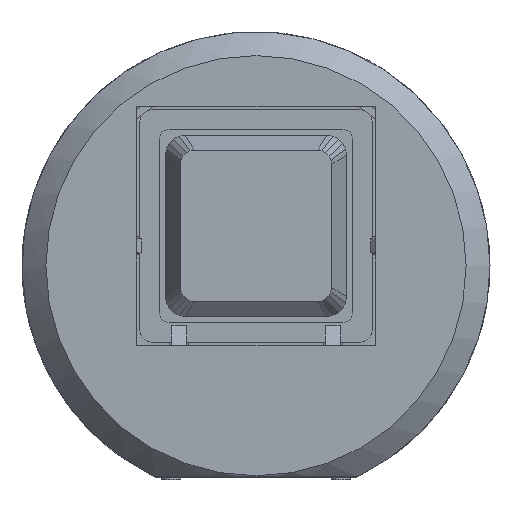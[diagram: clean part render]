
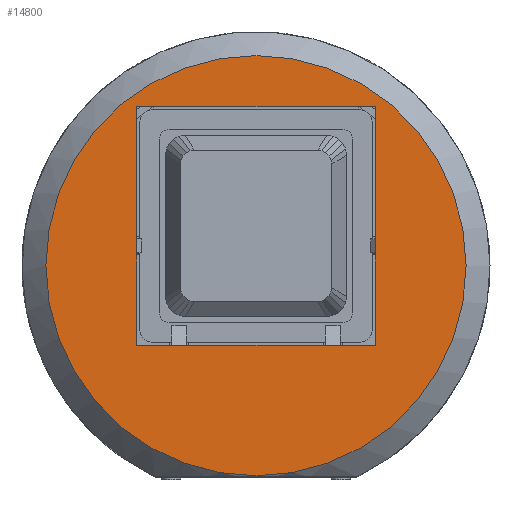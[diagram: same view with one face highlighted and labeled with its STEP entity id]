
A CAD part, top view. The second image highlights one B-rep face of the part: STEP entity #14800.
In plain terms, the highlighted planar face has unit normal (0, 0, 1).
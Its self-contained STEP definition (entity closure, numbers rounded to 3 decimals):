
#125 = CONICAL_SURFACE('',#126,23.5,0.785);
#126 = AXIS2_PLACEMENT_3D('',#127,#128,#129);
#127 = CARTESIAN_POINT('',(0.,0.,21.));
#128 = DIRECTION('',(-0.,-0.,-1.));
#129 = DIRECTION('',(1.,0.,0.));
#9402 = PLANE('',#9403);
#9403 = AXIS2_PLACEMENT_3D('',#9404,#9405,#9406);
#9404 = CARTESIAN_POINT('',(-12.,-8.,14.9));
#9405 = DIRECTION('',(1.,0.,0.));
#9406 = DIRECTION('',(0.,0.,1.));
#9779 = VERTEX_POINT('',#9780);
#9780 = CARTESIAN_POINT('',(-12.,-8.,23.4));
#9794 = PLANE('',#9795);
#9795 = AXIS2_PLACEMENT_3D('',#9796,#9797,#9798);
#9796 = CARTESIAN_POINT('',(-12.,-8.,14.9));
#9797 = DIRECTION('',(0.,1.,0.));
#9798 = DIRECTION('',(0.,0.,1.));
#9927 = VERTEX_POINT('',#9928);
#9928 = CARTESIAN_POINT('',(-12.,16.,23.4));
#9942 = PLANE('',#9943);
#9943 = AXIS2_PLACEMENT_3D('',#9944,#9945,#9946);
#9944 = CARTESIAN_POINT('',(-12.,16.,14.9));
#9945 = DIRECTION('',(0.,1.,0.));
#9946 = DIRECTION('',(0.,0.,1.));
#9954 = EDGE_CURVE('',#9779,#9927,#9955,.T.);
#9955 = SURFACE_CURVE('',#9956,(#9960,#9967),.PCURVE_S1.);
#9956 = LINE('',#9957,#9958);
#9957 = CARTESIAN_POINT('',(-12.,-4.,23.4));
#9958 = VECTOR('',#9959,1.);
#9959 = DIRECTION('',(0.,1.,0.));
#9960 = PCURVE('',#9402,#9961);
#9961 = DEFINITIONAL_REPRESENTATION('',(#9962),#9966);
#9962 = LINE('',#9963,#9964);
#9963 = CARTESIAN_POINT('',(8.5,-4.));
#9964 = VECTOR('',#9965,1.);
#9965 = DIRECTION('',(0.,-1.));
#9966 = ( GEOMETRIC_REPRESENTATION_CONTEXT(2) 
PARAMETRIC_REPRESENTATION_CONTEXT() REPRESENTATION_CONTEXT('2D SPACE',''
  ) );
#9967 = PCURVE('',#9968,#9973);
#9968 = PLANE('',#9969);
#9969 = AXIS2_PLACEMENT_3D('',#9970,#9971,#9972);
#9970 = CARTESIAN_POINT('',(0.,0.,23.4)
  );
#9971 = DIRECTION('',(0.,0.,1.));
#9972 = DIRECTION('',(1.,0.,-0.));
#9973 = DEFINITIONAL_REPRESENTATION('',(#9974),#9978);
#9974 = LINE('',#9975,#9976);
#9975 = CARTESIAN_POINT('',(-12.,-4.));
#9976 = VECTOR('',#9977,1.);
#9977 = DIRECTION('',(0.,1.));
#9978 = ( GEOMETRIC_REPRESENTATION_CONTEXT(2) 
PARAMETRIC_REPRESENTATION_CONTEXT() REPRESENTATION_CONTEXT('2D SPACE',''
  ) );
#10326 = PLANE('',#10327);
#10327 = AXIS2_PLACEMENT_3D('',#10328,#10329,#10330);
#10328 = CARTESIAN_POINT('',(12.,-8.,14.9));
#10329 = DIRECTION('',(1.,0.,0.));
#10330 = DIRECTION('',(0.,0.,1.));
#11211 = VERTEX_POINT('',#11212);
#11212 = CARTESIAN_POINT('',(12.,-8.,23.4));
#11391 = VERTEX_POINT('',#11392);
#11392 = CARTESIAN_POINT('',(12.,16.,23.4));
#11413 = EDGE_CURVE('',#11211,#11391,#11414,.T.);
#11414 = SURFACE_CURVE('',#11415,(#11419,#11426),.PCURVE_S1.);
#11415 = LINE('',#11416,#11417);
#11416 = CARTESIAN_POINT('',(12.,-4.,23.4));
#11417 = VECTOR('',#11418,1.);
#11418 = DIRECTION('',(0.,1.,0.));
#11419 = PCURVE('',#10326,#11420);
#11420 = DEFINITIONAL_REPRESENTATION('',(#11421),#11425);
#11421 = LINE('',#11422,#11423);
#11422 = CARTESIAN_POINT('',(8.5,-4.));
#11423 = VECTOR('',#11424,1.);
#11424 = DIRECTION('',(0.,-1.));
#11425 = ( GEOMETRIC_REPRESENTATION_CONTEXT(2) 
PARAMETRIC_REPRESENTATION_CONTEXT() REPRESENTATION_CONTEXT('2D SPACE',''
  ) );
#11426 = PCURVE('',#9968,#11427);
#11427 = DEFINITIONAL_REPRESENTATION('',(#11428),#11432);
#11428 = LINE('',#11429,#11430);
#11429 = CARTESIAN_POINT('',(12.,-4.));
#11430 = VECTOR('',#11431,1.);
#11431 = DIRECTION('',(0.,1.));
#11432 = ( GEOMETRIC_REPRESENTATION_CONTEXT(2) 
PARAMETRIC_REPRESENTATION_CONTEXT() REPRESENTATION_CONTEXT('2D SPACE',''
  ) );
#14781 = EDGE_CURVE('',#11391,#9927,#14782,.T.);
#14782 = SURFACE_CURVE('',#14783,(#14787,#14793),.PCURVE_S1.);
#14783 = LINE('',#14784,#14785);
#14784 = CARTESIAN_POINT('',(-6.,16.,23.4));
#14785 = VECTOR('',#14786,1.);
#14786 = DIRECTION('',(-1.,0.,0.));
#14787 = PCURVE('',#9942,#14788);
#14788 = DEFINITIONAL_REPRESENTATION('',(#14789),#14792);
#14789 = B_SPLINE_CURVE_WITH_KNOTS('',1,(#14790,#14791),.UNSPECIFIED.,
  .F.,.F.,(2,2),(-18.,6.),.PIECEWISE_BEZIER_KNOTS.);
#14790 = CARTESIAN_POINT('',(8.5,24.));
#14791 = CARTESIAN_POINT('',(8.5,0.));
#14792 = ( GEOMETRIC_REPRESENTATION_CONTEXT(2) 
PARAMETRIC_REPRESENTATION_CONTEXT() REPRESENTATION_CONTEXT('2D SPACE',''
  ) );
#14793 = PCURVE('',#9968,#14794);
#14794 = DEFINITIONAL_REPRESENTATION('',(#14795),#14799);
#14795 = LINE('',#14796,#14797);
#14796 = CARTESIAN_POINT('',(-6.,16.));
#14797 = VECTOR('',#14798,1.);
#14798 = DIRECTION('',(-1.,0.));
#14799 = ( GEOMETRIC_REPRESENTATION_CONTEXT(2) 
PARAMETRIC_REPRESENTATION_CONTEXT() REPRESENTATION_CONTEXT('2D SPACE',''
  ) );
#14800 = ADVANCED_FACE('',(#14801,#14831),#9968,.T.);
#14801 = FACE_BOUND('',#14802,.T.);
#14802 = EDGE_LOOP('',(#14803));
#14803 = ORIENTED_EDGE('',*,*,#14804,.F.);
#14804 = EDGE_CURVE('',#14805,#14805,#14807,.T.);
#14805 = VERTEX_POINT('',#14806);
#14806 = CARTESIAN_POINT('',(21.1,0.,23.4));
#14807 = SURFACE_CURVE('',#14808,(#14813,#14824),.PCURVE_S1.);
#14808 = CIRCLE('',#14809,21.1);
#14809 = AXIS2_PLACEMENT_3D('',#14810,#14811,#14812);
#14810 = CARTESIAN_POINT('',(0.,0.,
    23.4));
#14811 = DIRECTION('',(-0.,0.,-1.));
#14812 = DIRECTION('',(1.,0.,-0.));
#14813 = PCURVE('',#9968,#14814);
#14814 = DEFINITIONAL_REPRESENTATION('',(#14815),#14823);
#14815 = ( BOUNDED_CURVE() B_SPLINE_CURVE(2,(#14816,#14817,#14818,#14819
    ,#14820,#14821,#14822),.UNSPECIFIED.,.T.,.F.) 
B_SPLINE_CURVE_WITH_KNOTS((1,2,2,2,2,1),(-2.094,0.,
    2.094,4.189,6.283,8.378),
.UNSPECIFIED.) CURVE() GEOMETRIC_REPRESENTATION_ITEM() 
RATIONAL_B_SPLINE_CURVE((1.,0.5,1.,0.5,1.,0.5,1.)) REPRESENTATION_ITEM(
  '') );
#14816 = CARTESIAN_POINT('',(21.1,0.));
#14817 = CARTESIAN_POINT('',(21.1,-36.546));
#14818 = CARTESIAN_POINT('',(-10.55,-18.273));
#14819 = CARTESIAN_POINT('',(-42.2,0.));
#14820 = CARTESIAN_POINT('',(-10.55,18.273));
#14821 = CARTESIAN_POINT('',(21.1,36.546));
#14822 = CARTESIAN_POINT('',(21.1,0.));
#14823 = ( GEOMETRIC_REPRESENTATION_CONTEXT(2) 
PARAMETRIC_REPRESENTATION_CONTEXT() REPRESENTATION_CONTEXT('2D SPACE',''
  ) );
#14824 = PCURVE('',#125,#14825);
#14825 = DEFINITIONAL_REPRESENTATION('',(#14826),#14830);
#14826 = LINE('',#14827,#14828);
#14827 = CARTESIAN_POINT('',(-6.283,-2.4));
#14828 = VECTOR('',#14829,1.);
#14829 = DIRECTION('',(1.,-0.));
#14830 = ( GEOMETRIC_REPRESENTATION_CONTEXT(2) 
PARAMETRIC_REPRESENTATION_CONTEXT() REPRESENTATION_CONTEXT('2D SPACE',''
  ) );
#14831 = FACE_BOUND('',#14832,.T.);
#14832 = EDGE_LOOP('',(#14833,#14854,#14855,#14856));
#14833 = ORIENTED_EDGE('',*,*,#14834,.T.);
#14834 = EDGE_CURVE('',#11211,#9779,#14835,.T.);
#14835 = SURFACE_CURVE('',#14836,(#14840,#14847),.PCURVE_S1.);
#14836 = LINE('',#14837,#14838);
#14837 = CARTESIAN_POINT('',(-6.,-8.,23.4));
#14838 = VECTOR('',#14839,1.);
#14839 = DIRECTION('',(-1.,0.,0.));
#14840 = PCURVE('',#9968,#14841);
#14841 = DEFINITIONAL_REPRESENTATION('',(#14842),#14846);
#14842 = LINE('',#14843,#14844);
#14843 = CARTESIAN_POINT('',(-6.,-8.));
#14844 = VECTOR('',#14845,1.);
#14845 = DIRECTION('',(-1.,0.));
#14846 = ( GEOMETRIC_REPRESENTATION_CONTEXT(2) 
PARAMETRIC_REPRESENTATION_CONTEXT() REPRESENTATION_CONTEXT('2D SPACE',''
  ) );
#14847 = PCURVE('',#9794,#14848);
#14848 = DEFINITIONAL_REPRESENTATION('',(#14849),#14853);
#14849 = LINE('',#14850,#14851);
#14850 = CARTESIAN_POINT('',(8.5,6.));
#14851 = VECTOR('',#14852,1.);
#14852 = DIRECTION('',(0.,-1.));
#14853 = ( GEOMETRIC_REPRESENTATION_CONTEXT(2) 
PARAMETRIC_REPRESENTATION_CONTEXT() REPRESENTATION_CONTEXT('2D SPACE',''
  ) );
#14854 = ORIENTED_EDGE('',*,*,#9954,.T.);
#14855 = ORIENTED_EDGE('',*,*,#14781,.F.);
#14856 = ORIENTED_EDGE('',*,*,#11413,.F.);
